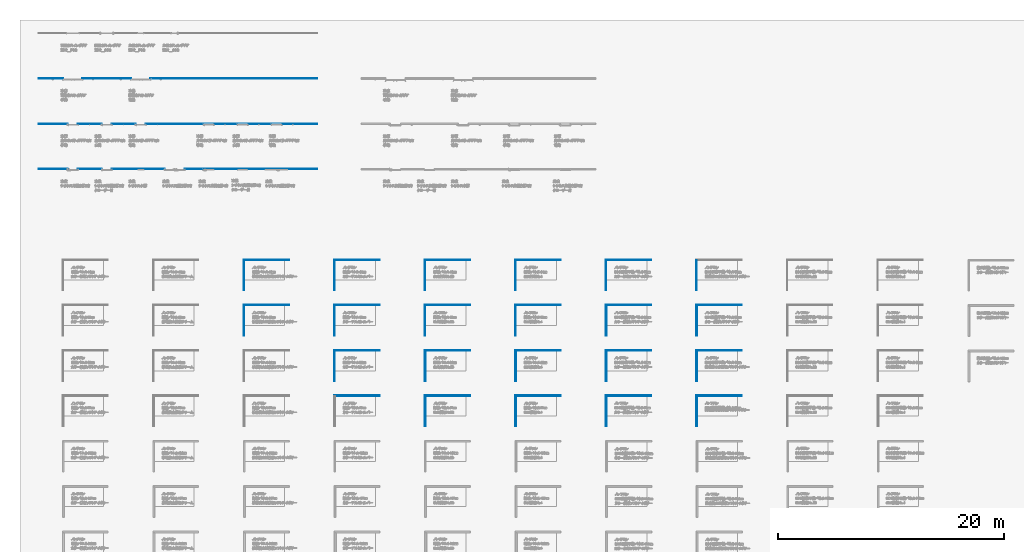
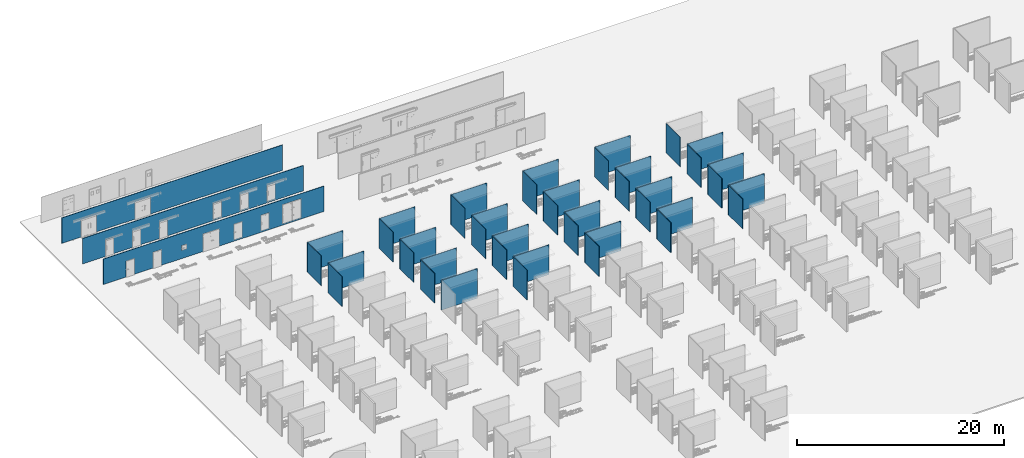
# One storey, part 3 of 16: 45 walls, 15 openings.
"""IFC2X3 building model written with IfcOpenShell, lengths in millimetres."""

from ifc_helpers import new_model, entity, si_unit, converted_unit, derived_unit, direction, frame, frame_2d, origin, place, context, subcontext, project, spatial, rectangle, extrude, material, layer, layer_set, layer_usage, type_object, element, save


model = new_model("IFC2X3")

# Units and contexts
model_context = context("Model", 3, precision=0.01, world=origin(), true_north=direction((6.123031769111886e-17, 1.0)))
body_context = subcontext(model_context, "Body", "Model", "MODEL_VIEW")
ifc_project = project(units=[si_unit("LENGTHUNIT", "METRE", prefix="MILLI"), si_unit("AREAUNIT", "SQUARE_METRE"), si_unit("VOLUMEUNIT", "CUBIC_METRE"), converted_unit("PLANEANGLEUNIT", "DEGREE", entity("IfcRatioMeasure", 0.017453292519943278), si_unit("PLANEANGLEUNIT", "RADIAN"), dimensions=[0, 0, 0, 0, 0, 0, 0]), si_unit("MASSUNIT", "GRAM", prefix="KILO"), derived_unit("MASSDENSITYUNIT", [(si_unit("MASSUNIT", "GRAM", prefix="KILO"), 1), (si_unit("LENGTHUNIT", "METRE"), -3)]), derived_unit("IONCONCENTRATIONUNIT", [(si_unit("MASSUNIT", "GRAM", prefix="KILO"), 1), (si_unit("LENGTHUNIT", "METRE"), -3)]), derived_unit("MOMENTOFINERTIAUNIT", [(si_unit("LENGTHUNIT", "METRE"), 4)]), si_unit("TIMEUNIT", "SECOND"), si_unit("FREQUENCYUNIT", "HERTZ"), si_unit("THERMODYNAMICTEMPERATUREUNIT", "DEGREE_CELSIUS"), derived_unit("THERMALTRANSMITTANCEUNIT", [(si_unit("MASSUNIT", "GRAM", prefix="KILO"), 1), (si_unit("THERMODYNAMICTEMPERATUREUNIT", "KELVIN"), -1), (si_unit("TIMEUNIT", "SECOND"), -3)]), derived_unit("THERMALCONDUCTANCEUNIT", [(si_unit("MASSUNIT", "GRAM", prefix="KILO"), 1), (si_unit("THERMODYNAMICTEMPERATUREUNIT", "KELVIN"), -1), (si_unit("TIMEUNIT", "SECOND"), -3), (si_unit("LENGTHUNIT", "METRE"), 1)]), derived_unit("VOLUMETRICFLOWRATEUNIT", [(si_unit("LENGTHUNIT", "METRE"), 3), (si_unit("TIMEUNIT", "SECOND"), -1)]), derived_unit("MASSFLOWRATEUNIT", [(si_unit("MASSUNIT", "GRAM", prefix="KILO"), 1), (si_unit("TIMEUNIT", "SECOND"), -1)]), derived_unit("ROTATIONALFREQUENCYUNIT", [(si_unit("TIMEUNIT", "SECOND"), -1)]), si_unit("ELECTRICCURRENTUNIT", "AMPERE"), si_unit("ELECTRICVOLTAGEUNIT", "VOLT"), si_unit("POWERUNIT", "WATT"), si_unit("FORCEUNIT", "NEWTON", prefix="KILO"), si_unit("ILLUMINANCEUNIT", "LUX"), si_unit("LUMINOUSFLUXUNIT", "LUMEN"), si_unit("LUMINOUSINTENSITYUNIT", "CANDELA"), derived_unit("USERDEFINED", [(si_unit("MASSUNIT", "GRAM", prefix="KILO"), -1), (si_unit("LENGTHUNIT", "METRE"), -2), (si_unit("TIMEUNIT", "SECOND"), 3), (si_unit("LUMINOUSFLUXUNIT", "LUMEN"), 1)]), derived_unit("USERDEFINED", [(si_unit("MASSUNIT", "GRAM", prefix="KILO"), 1), (si_unit("TIMEUNIT", "SECOND"), -3), (si_unit("LENGTHUNIT", "METRE"), 3), (si_unit("ELECTRICCURRENTUNIT", "AMPERE"), -2)]), derived_unit("SOUNDPOWERUNIT", [(si_unit("MASSUNIT", "GRAM", prefix="KILO"), 1), (si_unit("TIMEUNIT", "SECOND"), -3), (si_unit("LENGTHUNIT", "METRE"), 2)]), derived_unit("SOUNDPRESSUREUNIT", [(si_unit("MASSUNIT", "GRAM", prefix="KILO"), 1), (si_unit("LENGTHUNIT", "METRE"), -1), (si_unit("TIMEUNIT", "SECOND"), -2)]), derived_unit("LINEARVELOCITYUNIT", [(si_unit("LENGTHUNIT", "METRE"), 1), (si_unit("TIMEUNIT", "SECOND"), -1)]), si_unit("PRESSUREUNIT", "PASCAL"), derived_unit("USERDEFINED", [(si_unit("MASSUNIT", "GRAM", prefix="KILO"), 1), (si_unit("LENGTHUNIT", "METRE"), -2), (si_unit("TIMEUNIT", "SECOND"), -2)]), derived_unit("LINEARFORCEUNIT", [(si_unit("MASSUNIT", "GRAM", prefix="KILO"), 1), (si_unit("TIMEUNIT", "SECOND"), -2)]), derived_unit("PLANARFORCEUNIT", [(si_unit("MASSUNIT", "GRAM", prefix="KILO"), 1), (si_unit("LENGTHUNIT", "METRE"), -1), (si_unit("TIMEUNIT", "SECOND"), -2)]), derived_unit("SPECIFICHEATCAPACITYUNIT", [(si_unit("THERMODYNAMICTEMPERATUREUNIT", "KELVIN"), -1), (si_unit("LENGTHUNIT", "METRE"), 2), (si_unit("TIMEUNIT", "SECOND"), -2)]), derived_unit("HEATINGVALUEUNIT", [(si_unit("LENGTHUNIT", "METRE"), 2), (si_unit("TIMEUNIT", "SECOND"), -2)]), derived_unit("VAPORPERMEABILITYUNIT", [(si_unit("LENGTHUNIT", "METRE"), -1), (si_unit("TIMEUNIT", "SECOND"), 1)]), derived_unit("DYNAMICVISCOSITYUNIT", [(si_unit("MASSUNIT", "GRAM", prefix="KILO"), 1), (si_unit("TIMEUNIT", "SECOND"), -1), (si_unit("LENGTHUNIT", "METRE"), -1)]), derived_unit("THERMALEXPANSIONCOEFFICIENTUNIT", [(si_unit("THERMODYNAMICTEMPERATUREUNIT", "KELVIN"), -1)]), derived_unit("MODULUSOFELASTICITYUNIT", [(si_unit("MASSUNIT", "GRAM", prefix="KILO"), 1), (si_unit("LENGTHUNIT", "METRE"), -1), (si_unit("TIMEUNIT", "SECOND"), -2)]), derived_unit("ISOTHERMALMOISTURECAPACITYUNIT", [(si_unit("LENGTHUNIT", "METRE"), 3), (si_unit("MASSUNIT", "GRAM", prefix="KILO"), -1)]), derived_unit("MOISTUREDIFFUSIVITYUNIT", [(si_unit("TIMEUNIT", "SECOND"), -1), (si_unit("LENGTHUNIT", "METRE"), 2)])], contexts=[model_context])

# Site, building, storey
site_placement = place(None, origin())
site = spatial("IfcSite", under=ifc_project, at=site_placement, Name="Default", CompositionType="ELEMENT")
building_placement = place(site_placement, origin())
building = spatial("IfcBuilding", under=site, at=building_placement, CompositionType="ELEMENT")
storey_placement = place(building_placement, frame((0.0, 0.0, 500.0)))
storey = spatial("IfcBuildingStorey", under=building, at=storey_placement, Name="レベル 1", CompositionType="ELEMENT", Elevation=500.00000000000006)

# Walls
ifc_material_1 = material(Name="g-p_硬質ウレタンフォーム")
ifc_layer_1 = layer(ifc_material_1, 44.0)
ifc_layer_set_1 = layer_set([ifc_layer_1], Name="標準壁:g-p_断熱パネル(フラット)t44")
ifc_layer_usage_1 = layer_usage(ifc_layer_set_1, "AXIS2", "NEGATIVE", 22.0)
wall_type_1 = type_object("IfcWallType", Name="標準壁:g-p_断熱パネル(フラット)t44", PredefinedType="STANDARD", material=ifc_layer_set_1)
wall_1_placement = place(storey_placement, frame((-8000.0, 11978.0, 0.0)))
element("IfcWallStandardCase", 1, at=wall_1_placement, inside=storey, type_object=wall_type_1, material=ifc_layer_usage_1, Name="標準壁:g-p_断熱パネル(フラット)t44", ObjectType="標準壁:g-p_断熱パネル(フラット)t44", context=body_context, shape_type="SweptSolid", body=[
    extrude(rectangle(XDim=3999.999999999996, YDim=43.99999999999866, at=frame_2d((1999.999999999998, 0.0), x_axis=(-1.0, 0.0))), origin(), (0.0, 0.0, 1.0), 3500.0000000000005),
])
wall_2_placement = place(storey_placement, frame((-7978.0, 11956.0, 0.0), z_axis=(0.0, 0.0, 1.0), x_axis=(0.0, -1.0, 0.0)))
element("IfcWallStandardCase", 2, at=wall_2_placement, inside=storey, type_object=wall_type_1, material=ifc_layer_usage_1, Name="標準壁:g-p_断熱パネル(フラット)t44", ObjectType="標準壁:g-p_断熱パネル(フラット)t44", context=body_context, shape_type="SweptSolid", body=[
    extrude(rectangle(XDim=2677.9999999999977, YDim=44.000000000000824, at=frame_2d((1338.9999999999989, -4.440892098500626e-14), x_axis=(-1.0, 0.0))), origin(), (0.0, 0.0, 1.0), 3500.0000000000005),
])
wall_3_placement = place(storey_placement, frame((0.0, 11978.0, 0.0)))
element("IfcWallStandardCase", 3, at=wall_3_placement, inside=storey, type_object=wall_type_1, material=ifc_layer_usage_1, Name="標準壁:g-p_断熱パネル(フラット)t44", ObjectType="標準壁:g-p_断熱パネル(フラット)t44", context=body_context, shape_type="SweptSolid", body=[
    extrude(rectangle(XDim=3999.9999999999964, YDim=43.99999999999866, at=frame_2d((1999.9999999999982, 0.0), x_axis=(-1.0, 0.0))), origin(), (0.0, 0.0, 1.0), 3500.0000000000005),
])
wall_4_placement = place(storey_placement, frame((22.0, 11956.0, 0.0), z_axis=(0.0, 0.0, 1.0), x_axis=(0.0, -1.0, 0.0)))
element("IfcWallStandardCase", 4, at=wall_4_placement, inside=storey, type_object=wall_type_1, material=ifc_layer_usage_1, Name="標準壁:g-p_断熱パネル(フラット)t44", ObjectType="標準壁:g-p_断熱パネル(フラット)t44", context=body_context, shape_type="SweptSolid", body=[
    extrude(rectangle(XDim=2677.9999999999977, YDim=44.0, at=frame_2d((1338.9999999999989, 3.552713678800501e-15), x_axis=(-1.0, 0.0))), origin(), (0.0, 0.0, 1.0), 3500.0000000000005),
])
wall_5_placement = place(storey_placement, frame((8000.0, 11978.0, 0.0)))
element("IfcWallStandardCase", 5, at=wall_5_placement, inside=storey, type_object=wall_type_1, material=ifc_layer_usage_1, Name="標準壁:g-p_断熱パネル(フラット)t44", ObjectType="標準壁:g-p_断熱パネル(フラット)t44", context=body_context, shape_type="SweptSolid", body=[
    extrude(rectangle(XDim=3999.999999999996, YDim=43.99999999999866, at=frame_2d((1999.999999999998, 0.0), x_axis=(-1.0, 0.0))), origin(), (0.0, 0.0, 1.0), 3500.0000000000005),
])
wall_6_placement = place(storey_placement, frame((8022.0, 11956.0, 0.0), z_axis=(0.0, 0.0, 1.0), x_axis=(0.0, -1.0, 0.0)))
element("IfcWallStandardCase", 6, at=wall_6_placement, inside=storey, type_object=wall_type_1, material=ifc_layer_usage_1, Name="標準壁:g-p_断熱パネル(フラット)t44", ObjectType="標準壁:g-p_断熱パネル(フラット)t44", context=body_context, shape_type="SweptSolid", body=[
    extrude(rectangle(XDim=2677.9999999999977, YDim=44.000000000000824, at=frame_2d((1338.9999999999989, -4.440892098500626e-14), x_axis=(-1.0, 0.0))), origin(), (0.0, 0.0, 1.0), 3500.0000000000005),
])
wall_7_placement = place(storey_placement, frame((16000.0, 11978.0, 0.0)))
element("IfcWallStandardCase", 7, at=wall_7_placement, inside=storey, type_object=wall_type_1, material=ifc_layer_usage_1, Name="標準壁:g-p_断熱パネル(フラット)t44", ObjectType="標準壁:g-p_断熱パネル(フラット)t44", context=body_context, shape_type="SweptSolid", body=[
    extrude(rectangle(XDim=3999.999999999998, YDim=43.99999999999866, at=frame_2d((1999.999999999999, 0.0), x_axis=(-1.0, 0.0))), origin(), (0.0, 0.0, 1.0), 3500.0000000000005),
])
wall_8_placement = place(storey_placement, frame((16022.0, 11956.0, 0.0), z_axis=(0.0, 0.0, 1.0), x_axis=(0.0, -1.0, 0.0)))
element("IfcWallStandardCase", 8, at=wall_8_placement, inside=storey, type_object=wall_type_1, material=ifc_layer_usage_1, Name="標準壁:g-p_断熱パネル(フラット)t44", ObjectType="標準壁:g-p_断熱パネル(フラット)t44", context=body_context, shape_type="SweptSolid", body=[
    extrude(rectangle(XDim=2677.9999999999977, YDim=43.99999999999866, at=frame_2d((1338.9999999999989, -4.440892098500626e-14), x_axis=(-1.0, 0.0))), origin(), (0.0, 0.0, 1.0), 3500.0000000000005),
])

# Wall, openings
wall_9_placement = place(storey_placement, frame((-26100.0, 20000.0, 0.0)))
wall_9 = element("IfcWallStandardCase", 9, at=wall_9_placement, inside=storey, type_object=wall_type_1, material=ifc_layer_usage_1, Name="標準壁:g-p_断熱パネル(フラット)t44", ObjectType="標準壁:g-p_断熱パネル(フラット)t44", context=body_context, shape_type="SweptSolid", body=[
    extrude(rectangle(XDim=24600.00000000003, YDim=43.99999999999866, at=frame_2d((12300.000000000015, -6.927791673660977e-13), x_axis=(1.0, 0.0))), origin(), (0.0, 0.0, 1.0), 3000.000000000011),
])
opening_1_placement = place(wall_9_placement, frame((3451.0010300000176, 22.0, 0.0)))
element("IfcOpeningElement", 10, at=opening_1_placement, cuts=wall_9, Name="冷蔵_シリウス片開き扉3方:W870xH1855xt50:1", ObjectType="Opening", context=body_context, shape_type="SweptSolid", body=[
    extrude(rectangle(XDim=1871.0010299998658, YDim=902.0020599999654, at=frame_2d((935.5005149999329, 451.001029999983), x_axis=(-1.0, 0.0))), frame((0.0, 0.0, 0.0), z_axis=(0.0, -1.0, 0.0), x_axis=(0.0, 0.0, 1.0)), (0.0, 0.0, 1.0), 44.0),
])
opening_2_placement = place(wall_9_placement, frame((6451.001030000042, 22.0, 0.0)))
element("IfcOpeningElement", 11, at=opening_2_placement, cuts=wall_9, Name="冷蔵_シリウス片開き扉3方_クローザー付:W870xH1855xt50:1", ObjectType="Opening", context=body_context, shape_type="SweptSolid", body=[
    extrude(rectangle(XDim=1871.00102999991, YDim=902.0020599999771, at=frame_2d((935.500514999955, 451.0010299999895), x_axis=(-1.0, 0.0))), frame((0.0, 0.0, 0.0), z_axis=(0.0, -1.0, 0.0), x_axis=(0.0, 0.0, 1.0)), (0.0, 0.0, 1.0), 44.0),
])
opening_3_placement = place(wall_9_placement, frame((12901.001030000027, 22.0, 0.0)))
element("IfcOpeningElement", 12, at=opening_3_placement, cuts=wall_9, Name="冷蔵_シリウス両開き扉3方:W1770xH2055xt50:1", ObjectType="Opening", context=body_context, shape_type="SweptSolid", body=[
    extrude(rectangle(XDim=2071.0010299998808, YDim=1802.0020599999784, at=frame_2d((1035.5005149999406, 901.001029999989), x_axis=(-1.0, 0.0))), frame((0.0, 0.0, 0.0), z_axis=(0.0, -1.0, 0.0), x_axis=(0.0, 0.0, 1.0)), (0.0, 0.0, 1.0), 44.0),
])
opening_4_placement = place(wall_9_placement, frame((9266.001030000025, 22.0, 984.0)))
element("IfcOpeningElement", 13, at=opening_4_placement, cuts=wall_9, Name="冷蔵_シリウス小扉:W500xH500xt50:1", ObjectType="Opening", context=body_context, shape_type="SweptSolid", body=[
    extrude(rectangle(XDim=532.0010299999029, YDim=532.0020599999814, at=frame_2d((266.0005149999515, 266.00102999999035), x_axis=(-1.0, 0.0))), frame((0.0, 0.0, 0.0), z_axis=(0.0, -1.0, 0.0), x_axis=(0.0, 0.0, 1.0)), (0.0, 0.0, 1.0), 44.0),
])
opening_5_placement = place(wall_9_placement, frame((15451.00103000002, 22.0, 184.0)))
element("IfcOpeningElement", 14, at=opening_5_placement, cuts=wall_9, Name="冷蔵_シリウス片開き扉4方:W870xH1800xt50:1", ObjectType="Opening", context=body_context, shape_type="SweptSolid", body=[
    extrude(rectangle(XDim=1832.0010299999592, YDim=902.0020599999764, at=frame_2d((916.0005149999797, 451.0010299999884), x_axis=(-1.0, 0.0))), frame((0.0, 0.0, 0.0), z_axis=(0.0, -1.0, 0.0), x_axis=(0.0, 0.0, 1.0)), (0.0, 0.0, 1.0), 44.0),
])
opening_6_placement = place(wall_9_placement, frame((22016.001030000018, 22.0, 184.0)))
element("IfcOpeningElement", 15, at=opening_6_placement, cuts=wall_9, Name="冷蔵_シリウス両開き扉4方:W2000xH2200xt50:1", ObjectType="Opening", context=body_context, shape_type="SweptSolid", body=[
    extrude(rectangle(XDim=2232.0010299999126, YDim=2032.0020599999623, at=frame_2d((1116.0005149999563, 1016.0010299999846), x_axis=(-1.0, 0.0))), frame((0.0, 0.0, 0.0), z_axis=(0.0, -1.0, 0.0), x_axis=(0.0, 0.0, 1.0)), (0.0, 0.0, 1.0), 44.0),
])
opening_7_placement = place(wall_9_placement, frame((18451.001030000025, 22.0, 184.0)))
element("IfcOpeningElement", 16, at=opening_7_placement, cuts=wall_9, Name="冷蔵_シリウス片開き扉4方_クローザー付:W870xH1800xt50:1", ObjectType="Opening", context=body_context, shape_type="SweptSolid", body=[
    extrude(rectangle(XDim=1832.0010300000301, YDim=902.0020599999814, at=frame_2d((916.0005150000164, 451.00102999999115), x_axis=(-1.0, 0.0))), frame((0.0, 0.0, 0.0), z_axis=(0.0, -1.0, 0.0), x_axis=(0.0, 0.0, 1.0)), (0.0, 0.0, 1.0), 44.0),
])

wall_10_placement = place(storey_placement, frame((-26100.0, 24000.0, 0.0)))
wall_10 = element("IfcWallStandardCase", 17, at=wall_10_placement, inside=storey, type_object=wall_type_1, material=ifc_layer_usage_1, Name="標準壁:g-p_断熱パネル(フラット)t44", ObjectType="標準壁:g-p_断熱パネル(フラット)t44", context=body_context, shape_type="SweptSolid", body=[
    extrude(rectangle(XDim=24600.00000000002, YDim=43.99999999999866, at=frame_2d((12300.00000000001, -6.927791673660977e-13), x_axis=(1.0, 0.0))), origin(), (0.0, 0.0, 1.0), 3000.000000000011),
])
opening_8_placement = place(wall_10_placement, frame((6451.00103000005, 22.0, 0.0)))
element("IfcOpeningElement", 18, at=opening_8_placement, cuts=wall_10, Name="冷蔵_片引きスライドドア3方_自閉:W870xH1905xt55:1", ObjectType="Opening", context=body_context, shape_type="SweptSolid", body=[
    extrude(rectangle(XDim=1921.001029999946, YDim=902.002059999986, at=frame_2d((960.500514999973, 451.0010299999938), x_axis=(-1.0, 0.0))), frame((0.0, 0.0, 0.0), z_axis=(0.0, -1.0, 0.0), x_axis=(0.0, 0.0, 1.0)), (0.0, 0.0, 1.0), 44.0),
])
opening_9_placement = place(wall_10_placement, frame((3451.0010300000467, 22.0, 0.0)))
element("IfcOpeningElement", 19, at=opening_9_placement, cuts=wall_10, Name="冷蔵_片引きスライドドア3方_手動:W870xH1905xt55:1", ObjectType="Opening", context=body_context, shape_type="SweptSolid", body=[
    extrude(rectangle(XDim=1921.0010299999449, YDim=902.002059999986, at=frame_2d((960.5005149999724, 451.00102999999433), x_axis=(-1.0, 0.0))), frame((0.0, 0.0, 0.0), z_axis=(0.0, -1.0, 0.0), x_axis=(0.0, 0.0, 1.0)), (0.0, 0.0, 1.0), 44.0),
])
opening_10_placement = place(wall_10_placement, frame((9451.001030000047, 22.0, 0.0)))
element("IfcOpeningElement", 20, at=opening_10_placement, cuts=wall_10, Name="冷蔵_片引きスライドドア3方_電動:W870xH1905xt55:1", ObjectType="Opening", context=body_context, shape_type="SweptSolid", body=[
    extrude(rectangle(XDim=1921.0010299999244, YDim=902.0020599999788, at=frame_2d((960.5005149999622, 451.00102999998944), x_axis=(-1.0, 0.0))), frame((0.0, 0.0, 0.0), z_axis=(0.0, -1.0, 0.0), x_axis=(0.0, 0.0, 1.0)), (0.0, 0.0, 1.0), 44.0),
])
opening_11_placement = place(wall_10_placement, frame((21451.001030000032, 22.0, 184.0)))
element("IfcOpeningElement", 21, at=opening_11_placement, cuts=wall_10, Name="冷蔵_片引きスライドドア4方_電動:W870xH1800xt55:1", ObjectType="Opening", context=body_context, shape_type="SweptSolid", body=[
    extrude(rectangle(XDim=1832.0010300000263, YDim=902.0020599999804, at=frame_2d((916.0005150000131, 451.0010299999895), x_axis=(-1.0, 0.0))), frame((0.0, 0.0, 0.0), z_axis=(0.0, -1.0, 0.0), x_axis=(0.0, 0.0, 1.0)), (0.0, 0.0, 1.0), 44.0),
])
opening_12_placement = place(wall_10_placement, frame((18451.001030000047, 22.0, 184.0)))
element("IfcOpeningElement", 22, at=opening_12_placement, cuts=wall_10, Name="冷蔵_片引きスライドドア4方_自閉:W870xH1800xt55:1", ObjectType="Opening", context=body_context, shape_type="SweptSolid", body=[
    extrude(rectangle(XDim=1832.00103, YDim=902.002059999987, at=frame_2d((916.0005150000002, 451.0010299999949), x_axis=(-1.0, 0.0))), frame((0.0, 0.0, 0.0), z_axis=(0.0, -1.0, 0.0), x_axis=(0.0, 0.0, 1.0)), (0.0, 0.0, 1.0), 44.0),
])
opening_13_placement = place(wall_10_placement, frame((15451.001030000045, 22.0, 184.0)))
element("IfcOpeningElement", 23, at=opening_13_placement, cuts=wall_10, Name="冷蔵_片引きスライドドア4方_手動:W870xH1800xt55:1", ObjectType="Opening", context=body_context, shape_type="SweptSolid", body=[
    extrude(rectangle(XDim=1832.0010299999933, YDim=902.0020599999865, at=frame_2d((916.0005149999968, 451.0010299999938), x_axis=(-1.0, 0.0))), frame((0.0, 0.0, 0.0), z_axis=(0.0, -1.0, 0.0), x_axis=(0.0, 0.0, 1.0)), (0.0, 0.0, 1.0), 44.0),
])

wall_11_placement = place(storey_placement, frame((-26100.0, 28000.0, 0.0)))
wall_11 = element("IfcWallStandardCase", 24, at=wall_11_placement, inside=storey, type_object=wall_type_1, material=ifc_layer_usage_1, Name="標準壁:g-p_断熱パネル(フラット)t44", ObjectType="標準壁:g-p_断熱パネル(フラット)t44", context=body_context, shape_type="SweptSolid", body=[
    extrude(rectangle(XDim=24600.00000000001, YDim=43.99999999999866, at=frame_2d((12300.000000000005, -6.927791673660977e-13), x_axis=(1.0, 0.0))), origin(), (0.0, 0.0, 1.0), 3000.000000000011),
])
opening_14_placement = place(wall_11_placement, frame((3851.501030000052, 22.0, 0.0)))
element("IfcOpeningElement", 25, at=opening_14_placement, cuts=wall_11, Name="冷蔵_両引きスライドドア_手動:W1671xH2000xt50:1", ObjectType="Opening", context=body_context, shape_type="SweptSolid", body=[
    extrude(rectangle(XDim=2016.0010299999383, YDim=1703.0020599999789, at=frame_2d((1008.0005149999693, 851.5010299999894), x_axis=(-1.0, 0.0))), frame((0.0, 0.0, 0.0), z_axis=(0.0, -1.0, 0.0), x_axis=(0.0, 0.0, 1.0)), (0.0, 0.0, 1.0), 44.0),
])
opening_15_placement = place(wall_11_placement, frame((9851.501030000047, 22.0, 0.0)))
element("IfcOpeningElement", 26, at=opening_15_placement, cuts=wall_11, Name="冷蔵_両引きスライドドア_電動:W1671xH2000xt50:1", ObjectType="Opening", context=body_context, shape_type="SweptSolid", body=[
    extrude(rectangle(XDim=2016.0010299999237, YDim=1703.0020599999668, at=frame_2d((1008.000514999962, 851.501029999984), x_axis=(-1.0, 0.0))), frame((0.0, 0.0, 0.0), z_axis=(0.0, -1.0, 0.0), x_axis=(0.0, 0.0, 1.0)), (0.0, 0.0, 1.0), 44.0),
])

# Walls
ifc_layer_2 = layer(ifc_material_1, 50.0)
ifc_layer_set_2 = layer_set([ifc_layer_2], Name="標準壁:g-p_断熱パネル(フラット)t50")
ifc_layer_usage_2 = layer_usage(ifc_layer_set_2, "AXIS2", "NEGATIVE", 25.0)
wall_type_2 = type_object("IfcWallType", Name="標準壁:g-p_断熱パネル(フラット)t50", PredefinedType="STANDARD", material=ifc_layer_set_2)
wall_12_placement = place(storey_placement, frame((-8000.0, 7975.0, 0.0)))
element("IfcWallStandardCase", 27, at=wall_12_placement, inside=storey, type_object=wall_type_2, material=ifc_layer_usage_2, Name="標準壁:g-p_断熱パネル(フラット)t50", ObjectType="標準壁:g-p_断熱パネル(フラット)t50", context=body_context, shape_type="SweptSolid", body=[
    extrude(rectangle(XDim=4000.0000000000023, YDim=49.99999999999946, at=frame_2d((2000.0000000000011, 0.0), x_axis=(-1.0, 0.0))), origin(), (0.0, 0.0, 1.0), 3500.0000000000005),
])
wall_13_placement = place(storey_placement, frame((-7975.0, 7950.0, 0.0), z_axis=(0.0, 0.0, 1.0), x_axis=(0.0, -1.0, 0.0)))
element("IfcWallStandardCase", 28, at=wall_13_placement, inside=storey, type_object=wall_type_2, material=ifc_layer_usage_2, Name="標準壁:g-p_断熱パネル(フラット)t50", ObjectType="標準壁:g-p_断熱パネル(フラット)t50", context=body_context, shape_type="SweptSolid", body=[
    extrude(rectangle(XDim=2674.9999999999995, YDim=49.99999999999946, at=frame_2d((1337.4999999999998, -4.973799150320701e-14), x_axis=(-1.0, 0.0))), origin(), (0.0, 0.0, 1.0), 3500.0000000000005),
])
wall_14_placement = place(storey_placement, frame((0.0, 7975.0, 0.0)))
element("IfcWallStandardCase", 29, at=wall_14_placement, inside=storey, type_object=wall_type_2, material=ifc_layer_usage_2, Name="標準壁:g-p_断熱パネル(フラット)t50", ObjectType="標準壁:g-p_断熱パネル(フラット)t50", context=body_context, shape_type="SweptSolid", body=[
    extrude(rectangle(XDim=4000.0000000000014, YDim=49.99999999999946, at=frame_2d((2000.0000000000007, 0.0), x_axis=(-1.0, 0.0))), origin(), (0.0, 0.0, 1.0), 3500.0000000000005),
])
wall_15_placement = place(storey_placement, frame((25.0, 7950.0, 0.0), z_axis=(0.0, 0.0, 1.0), x_axis=(0.0, -1.0, 0.0)))
element("IfcWallStandardCase", 30, at=wall_15_placement, inside=storey, type_object=wall_type_2, material=ifc_layer_usage_2, Name="標準壁:g-p_断熱パネル(フラット)t50", ObjectType="標準壁:g-p_断熱パネル(フラット)t50", context=body_context, shape_type="SweptSolid", body=[
    extrude(rectangle(XDim=2674.9999999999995, YDim=50.0, at=frame_2d((1337.4999999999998, 0.0), x_axis=(-1.0, 0.0))), origin(), (0.0, 0.0, 1.0), 3500.0000000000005),
])
wall_16_placement = place(storey_placement, frame((8000.0, 7975.0, 0.0)))
element("IfcWallStandardCase", 31, at=wall_16_placement, inside=storey, type_object=wall_type_2, material=ifc_layer_usage_2, Name="標準壁:g-p_断熱パネル(フラット)t50", ObjectType="標準壁:g-p_断熱パネル(フラット)t50", context=body_context, shape_type="SweptSolid", body=[
    extrude(rectangle(XDim=4000.0000000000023, YDim=49.99999999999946, at=frame_2d((2000.0000000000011, 0.0), x_axis=(-1.0, 0.0))), origin(), (0.0, 0.0, 1.0), 3500.0000000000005),
])
wall_17_placement = place(storey_placement, frame((8025.0, 7950.0, 0.0), z_axis=(0.0, 0.0, 1.0), x_axis=(0.0, -1.0, 0.0)))
element("IfcWallStandardCase", 32, at=wall_17_placement, inside=storey, type_object=wall_type_2, material=ifc_layer_usage_2, Name="標準壁:g-p_断熱パネル(フラット)t50", ObjectType="標準壁:g-p_断熱パネル(フラット)t50", context=body_context, shape_type="SweptSolid", body=[
    extrude(rectangle(XDim=2674.9999999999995, YDim=49.99999999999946, at=frame_2d((1337.4999999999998, -4.973799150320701e-14), x_axis=(-1.0, 0.0))), origin(), (0.0, 0.0, 1.0), 3500.0000000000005),
])
wall_18_placement = place(storey_placement, frame((16000.0, 7975.0, 0.0)))
element("IfcWallStandardCase", 33, at=wall_18_placement, inside=storey, type_object=wall_type_2, material=ifc_layer_usage_2, Name="標準壁:g-p_断熱パネル(フラット)t50", ObjectType="標準壁:g-p_断熱パネル(フラット)t50", context=body_context, shape_type="SweptSolid", body=[
    extrude(rectangle(XDim=4000.0000000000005, YDim=49.99999999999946, at=frame_2d((2000.0000000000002, 0.0), x_axis=(-1.0, 0.0))), origin(), (0.0, 0.0, 1.0), 3500.0000000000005),
])
wall_19_placement = place(storey_placement, frame((16025.0, 7950.0, 0.0), z_axis=(0.0, 0.0, 1.0), x_axis=(0.0, -1.0, 0.0)))
element("IfcWallStandardCase", 34, at=wall_19_placement, inside=storey, type_object=wall_type_2, material=ifc_layer_usage_2, Name="標準壁:g-p_断熱パネル(フラット)t50", ObjectType="標準壁:g-p_断熱パネル(フラット)t50", context=body_context, shape_type="SweptSolid", body=[
    extrude(rectangle(XDim=2674.9999999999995, YDim=50.00000000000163, at=frame_2d((1337.4999999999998, -5.1514348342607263e-14), x_axis=(-1.0, 0.0))), origin(), (0.0, 0.0, 1.0), 3500.0000000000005),
])
ifc_layer_3 = layer(ifc_material_1, 62.0)
ifc_layer_set_3 = layer_set([ifc_layer_3], Name="標準壁:g-p_断熱パネル(フラット)t62")
ifc_layer_usage_3 = layer_usage(ifc_layer_set_3, "AXIS2", "NEGATIVE", 31.0)
wall_type_3 = type_object("IfcWallType", Name="標準壁:g-p_断熱パネル(フラット)t62", PredefinedType="STANDARD", material=ifc_layer_set_3)
wall_20_placement = place(storey_placement, frame((0.0, 3969.0, 0.0)))
element("IfcWallStandardCase", 35, at=wall_20_placement, inside=storey, type_object=wall_type_3, material=ifc_layer_usage_3, Name="標準壁:g-p_断熱パネル(フラット)t62", ObjectType="標準壁:g-p_断熱パネル(フラット)t62", context=body_context, shape_type="SweptSolid", body=[
    extrude(rectangle(XDim=4000.0000000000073, YDim=61.999999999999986, at=frame_2d((2000.0000000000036, 0.0), x_axis=(-1.0, 0.0))), origin(), (0.0, 0.0, 1.0), 3500.0000000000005),
])
wall_21_placement = place(storey_placement, frame((31.0, 3938.0, 0.0), z_axis=(0.0, 0.0, 1.0), x_axis=(0.0, -1.0, 0.0)))
element("IfcWallStandardCase", 36, at=wall_21_placement, inside=storey, type_object=wall_type_3, material=ifc_layer_usage_3, Name="標準壁:g-p_断熱パネル(フラット)t62", ObjectType="標準壁:g-p_断熱パネル(フラット)t62", context=body_context, shape_type="SweptSolid", body=[
    extrude(rectangle(XDim=2668.9999999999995, YDim=62.0, at=frame_2d((1334.4999999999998, -1.7763568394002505e-15), x_axis=(-1.0, 0.0))), origin(), (0.0, 0.0, 1.0), 3500.0000000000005),
])
wall_22_placement = place(storey_placement, frame((8000.0, 3969.0, 0.0)))
element("IfcWallStandardCase", 37, at=wall_22_placement, inside=storey, type_object=wall_type_3, material=ifc_layer_usage_3, Name="標準壁:g-p_断熱パネル(フラット)t62", ObjectType="標準壁:g-p_断熱パネル(フラット)t62", context=body_context, shape_type="SweptSolid", body=[
    extrude(rectangle(XDim=4000.000000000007, YDim=61.999999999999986, at=frame_2d((2000.0000000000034, 0.0), x_axis=(-1.0, 0.0))), origin(), (0.0, 0.0, 1.0), 3500.0000000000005),
])
wall_23_placement = place(storey_placement, frame((8031.0, 3938.0, 0.0), z_axis=(0.0, 0.0, 1.0), x_axis=(0.0, -1.0, 0.0)))
element("IfcWallStandardCase", 38, at=wall_23_placement, inside=storey, type_object=wall_type_3, material=ifc_layer_usage_3, Name="標準壁:g-p_断熱パネル(フラット)t62", ObjectType="標準壁:g-p_断熱パネル(フラット)t62", context=body_context, shape_type="SweptSolid", body=[
    extrude(rectangle(XDim=2668.9999999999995, YDim=62.000000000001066, at=frame_2d((1334.4999999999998, -6.217248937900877e-14), x_axis=(-1.0, 0.0))), origin(), (0.0, 0.0, 1.0), 3500.0000000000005),
])
wall_24_placement = place(storey_placement, frame((16000.0, 3969.0, 0.0)))
element("IfcWallStandardCase", 39, at=wall_24_placement, inside=storey, type_object=wall_type_3, material=ifc_layer_usage_3, Name="標準壁:g-p_断熱パネル(フラット)t62", ObjectType="標準壁:g-p_断熱パネル(フラット)t62", context=body_context, shape_type="SweptSolid", body=[
    extrude(rectangle(XDim=4000.000000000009, YDim=61.999999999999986, at=frame_2d((2000.0000000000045, 0.0), x_axis=(-1.0, 0.0))), origin(), (0.0, 0.0, 1.0), 3500.0000000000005),
])
wall_25_placement = place(storey_placement, frame((16031.0, 3938.0, 0.0), z_axis=(0.0, 0.0, 1.0), x_axis=(0.0, -1.0, 0.0)))
element("IfcWallStandardCase", 40, at=wall_25_placement, inside=storey, type_object=wall_type_3, material=ifc_layer_usage_3, Name="標準壁:g-p_断熱パネル(フラット)t62", ObjectType="標準壁:g-p_断熱パネル(フラット)t62", context=body_context, shape_type="SweptSolid", body=[
    extrude(rectangle(XDim=2668.9999999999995, YDim=61.999999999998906, at=frame_2d((1334.4999999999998, -6.039613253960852e-14), x_axis=(-1.0, 0.0))), origin(), (0.0, 0.0, 1.0), 3500.0000000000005),
])
ifc_layer_4 = layer(ifc_material_1, 77.0)
ifc_layer_set_4 = layer_set([ifc_layer_4], Name="標準壁:g-p_断熱パネル(フラット)t77")
ifc_layer_usage_4 = layer_usage(ifc_layer_set_4, "AXIS2", "NEGATIVE", 38.5)
wall_type_4 = type_object("IfcWallType", Name="標準壁:g-p_断熱パネル(フラット)t77", PredefinedType="STANDARD", material=ifc_layer_set_4)
for number, where in (
    (41, (0.0, -38.50000000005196, 0.0)),
    (42, (8000.0, -38.500000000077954, 0.0)),
):
    element("IfcWallStandardCase", number, at=place(storey_placement, frame(where)), inside=storey, type_object=wall_type_4, material=ifc_layer_usage_4, Name="標準壁:g-p_断熱パネル(フラット)t77", ObjectType="標準壁:g-p_断熱パネル(フラット)t77", context=body_context, shape_type="SweptSolid", body=[
        extrude(rectangle(XDim=4000.0000000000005, YDim=77.00000000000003, at=frame_2d((2000.0000000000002, -1.0658141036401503e-14), x_axis=(-1.0, 0.0))), origin(), (0.0, 0.0, 1.0), 3500.0000000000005),
    ])
wall_26_placement = place(storey_placement, frame((8038.5, -77.0, 0.0), z_axis=(0.0, 0.0, 1.0), x_axis=(0.0, -1.0, 0.0)))
element("IfcWallStandardCase", 43, at=wall_26_placement, inside=storey, type_object=wall_type_4, material=ifc_layer_usage_4, Name="標準壁:g-p_断熱パネル(フラット)t77", ObjectType="標準壁:g-p_断熱パネル(フラット)t77", context=body_context, shape_type="SweptSolid", body=[
    extrude(rectangle(XDim=2661.5000000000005, YDim=76.99999999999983, at=frame_2d((1330.7500000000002, -7.460698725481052e-14), x_axis=(-1.0, 0.0))), origin(), (0.0, 0.0, 1.0), 3500.0000000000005),
])
wall_27_placement = place(storey_placement, frame((16000.0, -38.500000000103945, 0.0)))
element("IfcWallStandardCase", 44, at=wall_27_placement, inside=storey, type_object=wall_type_4, material=ifc_layer_usage_4, Name="標準壁:g-p_断熱パネル(フラット)t77", ObjectType="標準壁:g-p_断熱パネル(フラット)t77", context=body_context, shape_type="SweptSolid", body=[
    extrude(rectangle(XDim=4000.0000000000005, YDim=77.00000000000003, at=frame_2d((2000.0000000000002, -1.0658141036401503e-14), x_axis=(-1.0, 0.0))), origin(), (0.0, 0.0, 1.0), 3500.0000000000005),
])
wall_28_placement = place(storey_placement, frame((16038.500000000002, -77.0, 0.0), z_axis=(0.0, 0.0, 1.0), x_axis=(0.0, -1.0, 0.0)))
element("IfcWallStandardCase", 45, at=wall_28_placement, inside=storey, type_object=wall_type_4, material=ifc_layer_usage_4, Name="標準壁:g-p_断熱パネル(フラット)t77", ObjectType="標準壁:g-p_断熱パネル(フラット)t77", context=body_context, shape_type="SweptSolid", body=[
    extrude(rectangle(XDim=2661.5000000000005, YDim=76.99999999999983, at=frame_2d((1330.7500000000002, -7.460698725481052e-14), x_axis=(-1.0, 0.0))), origin(), (0.0, 0.0, 1.0), 3500.0000000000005),
])
ifc_material_2 = material(Name="g-p_フェノールフォーム")
ifc_layer_5 = layer(ifc_material_2, 37.0)
ifc_layer_set_5 = layer_set([ifc_layer_5], Name="標準壁:g-p_ECO不燃断熱パネル(フラット)t37")
ifc_layer_usage_5 = layer_usage(ifc_layer_set_5, "AXIS2", "NEGATIVE", 18.5)
wall_type_5 = type_object("IfcWallType", Name="標準壁:g-p_ECO不燃断熱パネル(フラット)t37", PredefinedType="STANDARD", material=ifc_layer_set_5)
wall_29_placement = place(storey_placement, frame((24000.0, 11981.49999999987, 0.0)))
element("IfcWallStandardCase", 46, at=wall_29_placement, inside=storey, type_object=wall_type_5, material=ifc_layer_usage_5, Name="標準壁:g-p_ECO不燃断熱パネル(フラット)t37", ObjectType="標準壁:g-p_ECO不燃断熱パネル(フラット)t37", context=body_context, shape_type="SweptSolid", body=[
    extrude(rectangle(XDim=3996.499999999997, YDim=37.00000000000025, at=frame_2d((1998.2499999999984, -5.329070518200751e-15), x_axis=(-1.0, 0.0))), origin(), (0.0, 0.0, 1.0), 3500.0000000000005),
])
for number, where, z_axis, x_axis in (
    (47, (24018.500000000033, 11963.0, 0.0), (0.0, 0.0, 1.0), (0.0, -1.0, 0.0)),
    (48, (32018.500000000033, 11963.0, 0.0), (0.0, 0.0, 1.0), (0.0, -1.0, 0.0)),
):
    element("IfcWallStandardCase", number, at=place(storey_placement, frame(where, z_axis=z_axis, x_axis=x_axis)), inside=storey, type_object=wall_type_5, material=ifc_layer_usage_5, Name="標準壁:g-p_ECO不燃断熱パネル(フラット)t37", ObjectType="標準壁:g-p_ECO不燃断熱パネル(フラット)t37", context=body_context, shape_type="SweptSolid", body=[
        extrude(rectangle(XDim=2681.499999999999, YDim=37.000000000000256, at=frame_2d((1340.7499999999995, -1.1191048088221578e-12), x_axis=(-1.0, 0.0))), origin(), (0.0, 0.0, 1.0), 3500.0000000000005),
    ])
ifc_layer_6 = layer(ifc_material_2, 52.00000000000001)
ifc_layer_set_6 = layer_set([ifc_layer_6], Name="標準壁:g-p_ECO不燃断熱パネル(フラット)t52")
ifc_layer_usage_6 = layer_usage(ifc_layer_set_6, "AXIS2", "NEGATIVE", 26.000000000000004)
wall_type_6 = type_object("IfcWallType", Name="標準壁:g-p_ECO不燃断熱パネル(フラット)t52", PredefinedType="STANDARD", material=ifc_layer_set_6)
wall_30_placement = place(storey_placement, frame((24000.0, 7974.0, 0.0)))
element("IfcWallStandardCase", 49, at=wall_30_placement, inside=storey, type_object=wall_type_6, material=ifc_layer_usage_6, Name="標準壁:g-p_ECO不燃断熱パネル(フラット)t52", ObjectType="標準壁:g-p_ECO不燃断熱パネル(フラット)t52", context=body_context, shape_type="SweptSolid", body=[
    extrude(rectangle(XDim=4001.0000000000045, YDim=51.999999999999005, at=frame_2d((2000.5000000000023, 1.7763568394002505e-15), x_axis=(-1.0, 0.0))), origin(), (0.0, 0.0, 1.0), 3500.0000000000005),
])
wall_31_placement = place(storey_placement, frame((24026.0, 7948.0, 0.0), z_axis=(0.0, 0.0, 1.0), x_axis=(0.0, -1.0, 0.0)))
element("IfcWallStandardCase", 50, at=wall_31_placement, inside=storey, type_object=wall_type_6, material=ifc_layer_usage_6, Name="標準壁:g-p_ECO不燃断熱パネル(フラット)t52", ObjectType="標準壁:g-p_ECO不燃断熱パネル(フラット)t52", context=body_context, shape_type="SweptSolid", body=[
    extrude(rectangle(XDim=2673.9999999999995, YDim=51.999999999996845, at=frame_2d((1336.9999999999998, -1.13509202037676e-12), x_axis=(-1.0, 0.0))), origin(), (0.0, 0.0, 1.0), 3500.0000000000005),
])
wall_32_placement = place(storey_placement, frame((32000.0, 7974.0, 0.0)))
element("IfcWallStandardCase", 51, at=wall_32_placement, inside=storey, type_object=wall_type_6, material=ifc_layer_usage_6, Name="標準壁:g-p_ECO不燃断熱パネル(フラット)t52", ObjectType="標準壁:g-p_ECO不燃断熱パネル(フラット)t52", context=body_context, shape_type="SweptSolid", body=[
    extrude(rectangle(XDim=4001.0000000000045, YDim=51.999999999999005, at=frame_2d((2000.5000000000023, 1.7763568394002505e-15), x_axis=(-1.0, 0.0))), origin(), (0.0, 0.0, 1.0), 3500.0000000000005),
])
wall_33_placement = place(storey_placement, frame((32026.0, 7948.0, 0.0), z_axis=(0.0, 0.0, 1.0), x_axis=(0.0, -1.0, 0.0)))
element("IfcWallStandardCase", 52, at=wall_33_placement, inside=storey, type_object=wall_type_6, material=ifc_layer_usage_6, Name="標準壁:g-p_ECO不燃断熱パネル(フラット)t52", ObjectType="標準壁:g-p_ECO不燃断熱パネル(フラット)t52", context=body_context, shape_type="SweptSolid", body=[
    extrude(rectangle(XDim=2673.9999999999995, YDim=51.999999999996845, at=frame_2d((1336.9999999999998, -1.13509202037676e-12), x_axis=(-1.0, 0.0))), origin(), (0.0, 0.0, 1.0), 3500.0000000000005),
])
ifc_layer_7 = layer(ifc_material_2, 68.0)
ifc_layer_set_7 = layer_set([ifc_layer_7], Name="標準壁:g-p_ECO不燃断熱パネル(フラット)t68")
ifc_layer_usage_7 = layer_usage(ifc_layer_set_7, "AXIS2", "NEGATIVE", 34.0)
wall_type_7 = type_object("IfcWallType", Name="標準壁:g-p_ECO不燃断熱パネル(フラット)t68", PredefinedType="STANDARD", material=ifc_layer_set_7)
wall_34_placement = place(storey_placement, frame((24000.0, 3966.0, 0.0)))
element("IfcWallStandardCase", 53, at=wall_34_placement, inside=storey, type_object=wall_type_7, material=ifc_layer_usage_7, Name="標準壁:g-p_ECO不燃断熱パネル(フラット)t68", ObjectType="標準壁:g-p_ECO不燃断熱パネル(フラット)t68", context=body_context, shape_type="SweptSolid", body=[
    extrude(rectangle(XDim=3995.5000000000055, YDim=67.9999999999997, at=frame_2d((1997.7500000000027, -7.105427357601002e-15), x_axis=(-1.0, 0.0))), origin(), (0.0, 0.0, 1.0), 3500.0000000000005),
])
wall_35_placement = place(storey_placement, frame((24034.0, 3932.0, 0.0), z_axis=(0.0, 0.0, 1.0), x_axis=(0.0, -1.0, 0.0)))
element("IfcWallStandardCase", 54, at=wall_35_placement, inside=storey, type_object=wall_type_7, material=ifc_layer_usage_7, Name="標準壁:g-p_ECO不燃断熱パネル(フラット)t68", ObjectType="標準壁:g-p_ECO不燃断熱パネル(フラット)t68", context=body_context, shape_type="SweptSolid", body=[
    extrude(rectangle(XDim=2665.999999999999, YDim=68.00000000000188, at=frame_2d((1332.9999999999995, -1.1475265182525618e-12), x_axis=(-1.0, 0.0))), origin(), (0.0, 0.0, 1.0), 3500.0000000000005),
])
wall_36_placement = place(storey_placement, frame((32000.0, 3966.0, 0.0)))
element("IfcWallStandardCase", 55, at=wall_36_placement, inside=storey, type_object=wall_type_7, material=ifc_layer_usage_7, Name="標準壁:g-p_ECO不燃断熱パネル(フラット)t68", ObjectType="標準壁:g-p_ECO不燃断熱パネル(フラット)t68", context=body_context, shape_type="SweptSolid", body=[
    extrude(rectangle(XDim=3995.5000000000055, YDim=67.9999999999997, at=frame_2d((1997.7500000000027, -7.105427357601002e-15), x_axis=(-1.0, 0.0))), origin(), (0.0, 0.0, 1.0), 3500.0000000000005),
])
wall_37_placement = place(storey_placement, frame((32034.0, 3932.0, 0.0), z_axis=(0.0, 0.0, 1.0), x_axis=(0.0, -1.0, 0.0)))
element("IfcWallStandardCase", 56, at=wall_37_placement, inside=storey, type_object=wall_type_7, material=ifc_layer_usage_7, Name="標準壁:g-p_ECO不燃断熱パネル(フラット)t68", ObjectType="標準壁:g-p_ECO不燃断熱パネル(フラット)t68", context=body_context, shape_type="SweptSolid", body=[
    extrude(rectangle(XDim=2665.999999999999, YDim=68.00000000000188, at=frame_2d((1332.9999999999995, -1.1475265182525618e-12), x_axis=(-1.0, 0.0))), origin(), (0.0, 0.0, 1.0), 3500.0000000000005),
])
ifc_layer_8 = layer(ifc_material_2, 87.0)
ifc_layer_set_8 = layer_set([ifc_layer_8], Name="標準壁:g-p_ECO不燃断熱パネル(フラット)t87")
ifc_layer_usage_8 = layer_usage(ifc_layer_set_8, "AXIS2", "NEGATIVE", 43.5)
wall_type_8 = type_object("IfcWallType", Name="標準壁:g-p_ECO不燃断熱パネル(フラット)t87", PredefinedType="STANDARD", material=ifc_layer_set_8)
wall_38_placement = place(storey_placement, frame((24000.0, -43.50000000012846, 0.0)))
element("IfcWallStandardCase", 57, at=wall_38_placement, inside=storey, type_object=wall_type_8, material=ifc_layer_usage_8, Name="標準壁:g-p_ECO不燃断熱パネル(フラット)t87", ObjectType="標準壁:g-p_ECO不燃断熱パネル(フラット)t87", context=body_context, shape_type="SweptSolid", body=[
    extrude(rectangle(XDim=3993.500000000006, YDim=87.0, at=frame_2d((1996.750000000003, -7.105427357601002e-15), x_axis=(-1.0, 0.0))), origin(), (0.0, 0.0, 1.0), 3500.0000000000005),
])
wall_39_placement = place(storey_placement, frame((24043.500000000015, -87.0, 0.0), z_axis=(0.0, 0.0, 1.0), x_axis=(0.0, -1.0, 0.0)))
element("IfcWallStandardCase", 58, at=wall_39_placement, inside=storey, type_object=wall_type_8, material=ifc_layer_usage_8, Name="標準壁:g-p_ECO不燃断熱パネル(フラット)t87", ObjectType="標準壁:g-p_ECO不燃断熱パネル(フラット)t87", context=body_context, shape_type="SweptSolid", body=[
    extrude(rectangle(XDim=2656.5, YDim=86.99999999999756, at=frame_2d((1328.25, -1.1688428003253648e-12), x_axis=(-1.0, 0.0))), origin(), (0.0, 0.0, 1.0), 3500.0000000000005),
])
wall_40_placement = place(storey_placement, frame((32000.0, -43.500000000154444, 0.0)))
element("IfcWallStandardCase", 59, at=wall_40_placement, inside=storey, type_object=wall_type_8, material=ifc_layer_usage_8, Name="標準壁:g-p_ECO不燃断熱パネル(フラット)t87", ObjectType="標準壁:g-p_ECO不燃断熱パネル(フラット)t87", context=body_context, shape_type="SweptSolid", body=[
    extrude(rectangle(XDim=3993.500000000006, YDim=87.0, at=frame_2d((1996.750000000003, -7.105427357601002e-15), x_axis=(-1.0, 0.0))), origin(), (0.0, 0.0, 1.0), 3500.0000000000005),
])
wall_41_placement = place(storey_placement, frame((32043.500000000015, -87.0, 0.0), z_axis=(0.0, 0.0, 1.0), x_axis=(0.0, -1.0, 0.0)))
element("IfcWallStandardCase", 60, at=wall_41_placement, inside=storey, type_object=wall_type_8, material=ifc_layer_usage_8, Name="標準壁:g-p_ECO不燃断熱パネル(フラット)t87", ObjectType="標準壁:g-p_ECO不燃断熱パネル(フラット)t87", context=body_context, shape_type="SweptSolid", body=[
    extrude(rectangle(XDim=2656.5, YDim=86.99999999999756, at=frame_2d((1328.25, -1.1688428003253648e-12), x_axis=(-1.0, 0.0))), origin(), (0.0, 0.0, 1.0), 3500.0000000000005),
])

save(model, "model.ifc")
